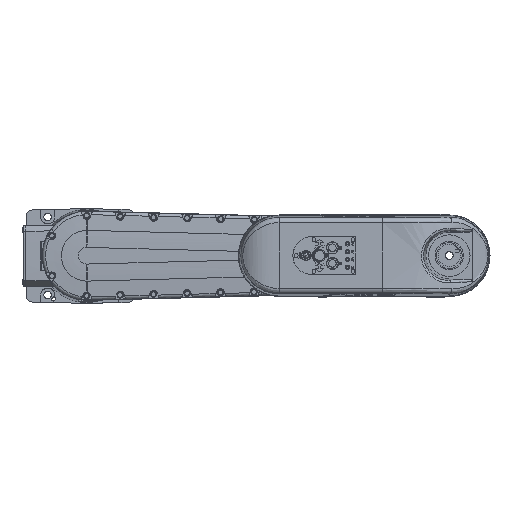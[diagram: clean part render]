
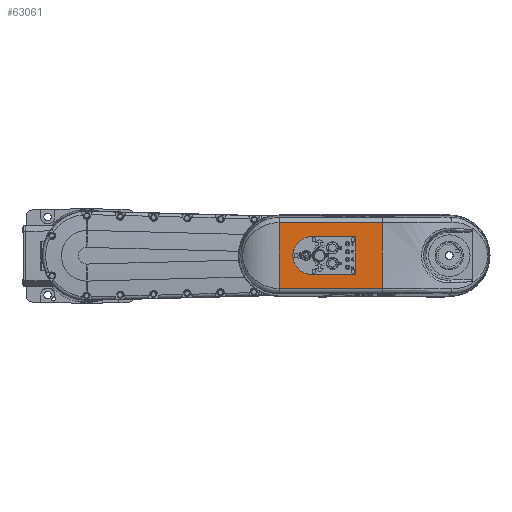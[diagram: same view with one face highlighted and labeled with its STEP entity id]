
A CAD part, top view. The second image highlights one B-rep face of the part: STEP entity #63061.
In plain terms, the highlighted planar face has unit normal (0, 0, 1).
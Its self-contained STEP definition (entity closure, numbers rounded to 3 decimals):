
#392 = CARTESIAN_POINT ( 'NONE',  ( 482.5, 34., 457.7 ) ) ;
#2128 = CARTESIAN_POINT ( 'NONE',  ( 345., -59.156, 457.7 ) ) ;
#3279 = ORIENTED_EDGE ( 'NONE', *, *, #89920, .T. ) ;
#6638 = CARTESIAN_POINT ( 'NONE',  ( 481.672, 34., 457.7 ) ) ;
#6941 = CARTESIAN_POINT ( 'NONE',  ( 345., -705.242, 457.7 ) ) ;
#7879 = CARTESIAN_POINT ( 'NONE',  ( 482.5, 32.001, 457.7 ) ) ;
#7990 = ORIENTED_EDGE ( 'NONE', *, *, #49800, .T. ) ;
#8469 = LINE ( 'NONE', #392, #26361 ) ;
#10960 = LINE ( 'NONE', #72539, #44419 ) ;
#12522 = ORIENTED_EDGE ( 'NONE', *, *, #20106, .F. ) ;
#14131 = DIRECTION ( 'NONE',  ( 0., 1., 0. ) ) ;
#14148 = VERTEX_POINT ( 'NONE', #53972 ) ;
#14198 = DIRECTION ( 'NONE',  ( 0., 1., 0. ) ) ;
#14391 = EDGE_CURVE ( 'NONE', #52808, #59724, #50263, .T. ) ;
#15331 =( BOUNDED_CURVE ( )  B_SPLINE_CURVE ( 3, ( #65426, #37319, #31054, #17016 ),
 .UNSPECIFIED., .F., .F. ) 
 B_SPLINE_CURVE_WITH_KNOTS ( ( 4, 4 ),
 ( 2.357, 3.927 ),
 .UNSPECIFIED. ) 
 CURVE ( )  GEOMETRIC_REPRESENTATION_ITEM ( )  RATIONAL_B_SPLINE_CURVE ( ( 1., 0.805, 0.805, 1. ) ) 
 REPRESENTATION_ITEM ( '' )  );
#15692 = CARTESIAN_POINT ( 'NONE',  ( 480.501, -34., 457.7 ) ) ;
#17016 = CARTESIAN_POINT ( 'NONE',  ( 480.501, -34., 457.7 ) ) ;
#17786 = VERTEX_POINT ( 'NONE', #58707 ) ;
#19010 = ORIENTED_EDGE ( 'NONE', *, *, #49358, .F. ) ;
#19147 = CARTESIAN_POINT ( 'NONE',  ( 530., -705.455, 457.7 ) ) ;
#19228 = AXIS2_PLACEMENT_3D ( 'NONE', #63186, #20427, #14198 ) ;
#19513 = EDGE_LOOP ( 'NONE', ( #70201, #7990, #12522, #42516, #72550, #19010 ) ) ;
#19774 = DIRECTION ( 'NONE',  ( 0., 1., 0. ) ) ;
#19818 = CARTESIAN_POINT ( 'NONE',  ( 345., 59.156, 457.7 ) ) ;
#19878 = CARTESIAN_POINT ( 'NONE',  ( 403.5, -34., 457.7 ) ) ;
#20106 = EDGE_CURVE ( 'NONE', #38024, #47474, #8469, .T. ) ;
#20375 = CARTESIAN_POINT ( 'NONE',  ( 482.5, 32.001, 457.7 ) ) ;
#20427 = DIRECTION ( 'NONE',  ( 0., 0., 1. ) ) ;
#20435 = PLANE ( 'NONE',  #45016 ) ;
#21041 = CARTESIAN_POINT ( 'NONE',  ( 345., 0., 457.7 ) ) ;
#22883 = EDGE_CURVE ( 'NONE', #74405, #38860, #39123, .T. ) ;
#24005 = VECTOR ( 'NONE', #19774, 1000. ) ;
#24337 = FACE_BOUND ( 'NONE', #19513, .T. ) ;
#26361 = VECTOR ( 'NONE', #14131, 1000. ) ;
#30758 = LINE ( 'NONE', #19147, #24005 ) ;
#31054 = CARTESIAN_POINT ( 'NONE',  ( 481.672, -34., 457.7 ) ) ;
#31311 = DIRECTION ( 'NONE',  ( -1., 0., 0. ) ) ;
#31348 = ORIENTED_EDGE ( 'NONE', *, *, #14391, .T. ) ;
#33130 = CARTESIAN_POINT ( 'NONE',  ( 530., -59.156, 457.7 ) ) ;
#34701 =( BOUNDED_CURVE ( )  B_SPLINE_CURVE ( 3, ( #41604, #6638, #49054, #20375 ),
 .UNSPECIFIED., .F., .F. ) 
 B_SPLINE_CURVE_WITH_KNOTS ( ( 4, 4 ),
 ( 2.357, 3.927 ),
 .UNSPECIFIED. ) 
 CURVE ( )  GEOMETRIC_REPRESENTATION_ITEM ( )  RATIONAL_B_SPLINE_CURVE ( ( 1., 0.805, 0.805, 1. ) ) 
 REPRESENTATION_ITEM ( '' )  );
#35440 = VECTOR ( 'NONE', #31311, 1000. ) ;
#37319 = CARTESIAN_POINT ( 'NONE',  ( 482.5, -33.172, 457.7 ) ) ;
#38024 = VERTEX_POINT ( 'NONE', #44544 ) ;
#38860 = VERTEX_POINT ( 'NONE', #15692 ) ;
#39123 = LINE ( 'NONE', #79557, #60349 ) ;
#40077 = EDGE_CURVE ( 'NONE', #14148, #56191, #10960, .T. ) ;
#40759 = ORIENTED_EDGE ( 'NONE', *, *, #63225, .T. ) ;
#41604 = CARTESIAN_POINT ( 'NONE',  ( 480.501, 34., 457.7 ) ) ;
#42516 = ORIENTED_EDGE ( 'NONE', *, *, #60574, .T. ) ;
#42615 = VERTEX_POINT ( 'NONE', #19818 ) ;
#44222 = CARTESIAN_POINT ( 'NONE',  ( 530., -59.156, 457.7 ) ) ;
#44419 = VECTOR ( 'NONE', #65074, 1000. ) ;
#44544 = CARTESIAN_POINT ( 'NONE',  ( 482.5, -32.001, 457.7 ) ) ;
#44906 = ORIENTED_EDGE ( 'NONE', *, *, #52122, .F. ) ;
#45016 = AXIS2_PLACEMENT_3D ( 'NONE', #21041, #56007, #63491 ) ;
#47474 = VERTEX_POINT ( 'NONE', #7879 ) ;
#49040 = DIRECTION ( 'NONE',  ( 0., 1., 0. ) ) ;
#49054 = CARTESIAN_POINT ( 'NONE',  ( 482.5, 33.172, 457.7 ) ) ;
#49358 = EDGE_CURVE ( 'NONE', #56191, #74405, #51655, .T. ) ;
#49800 = EDGE_CURVE ( 'NONE', #14148, #47474, #34701, .T. ) ;
#50263 = LINE ( 'NONE', #44222, #68159 ) ;
#51655 = CIRCLE ( 'NONE', #19228, 34. ) ;
#52122 = EDGE_CURVE ( 'NONE', #52808, #42615, #63469, .T. ) ;
#52808 = VERTEX_POINT ( 'NONE', #2128 ) ;
#53972 = CARTESIAN_POINT ( 'NONE',  ( 480.501, 34., 457.7 ) ) ;
#56007 = DIRECTION ( 'NONE',  ( 0., 0., 1. ) ) ;
#56191 = VERTEX_POINT ( 'NONE', #81575 ) ;
#57950 = DIRECTION ( 'NONE',  ( 1., 0., 0. ) ) ;
#58707 = CARTESIAN_POINT ( 'NONE',  ( 530., 59.156, 457.7 ) ) ;
#59724 = VERTEX_POINT ( 'NONE', #33130 ) ;
#60349 = VECTOR ( 'NONE', #79238, 1000. ) ;
#60574 = EDGE_CURVE ( 'NONE', #38024, #38860, #15331, .T. ) ;
#61226 = VECTOR ( 'NONE', #49040, 1000. ) ;
#63061 = ADVANCED_FACE ( 'NONE', ( #80104, #24337 ), #20435, .T. ) ;
#63186 = CARTESIAN_POINT ( 'NONE',  ( 403.5, 0., 457.7 ) ) ;
#63225 = EDGE_CURVE ( 'NONE', #17786, #42615, #83390, .T. ) ;
#63469 = LINE ( 'NONE', #6941, #61226 ) ;
#63491 = DIRECTION ( 'NONE',  ( 0., -1., 0. ) ) ;
#65074 = DIRECTION ( 'NONE',  ( -1., 0., 0. ) ) ;
#65426 = CARTESIAN_POINT ( 'NONE',  ( 482.5, -32.001, 457.7 ) ) ;
#68159 = VECTOR ( 'NONE', #57950, 1000. ) ;
#70201 = ORIENTED_EDGE ( 'NONE', *, *, #40077, .F. ) ;
#72539 = CARTESIAN_POINT ( 'NONE',  ( 482.5, 34., 457.7 ) ) ;
#72550 = ORIENTED_EDGE ( 'NONE', *, *, #22883, .F. ) ;
#74368 = CARTESIAN_POINT ( 'NONE',  ( 345., 59.156, 457.7 ) ) ;
#74405 = VERTEX_POINT ( 'NONE', #19878 ) ;
#79238 = DIRECTION ( 'NONE',  ( 1., 0., 0. ) ) ;
#79557 = CARTESIAN_POINT ( 'NONE',  ( 482.5, -34., 457.7 ) ) ;
#80104 = FACE_OUTER_BOUND ( 'NONE', #84616, .T. ) ;
#81575 = CARTESIAN_POINT ( 'NONE',  ( 403.5, 34., 457.7 ) ) ;
#83390 = LINE ( 'NONE', #74368, #35440 ) ;
#84616 = EDGE_LOOP ( 'NONE', ( #3279, #40759, #44906, #31348 ) ) ;
#89920 = EDGE_CURVE ( 'NONE', #59724, #17786, #30758, .T. ) ;
